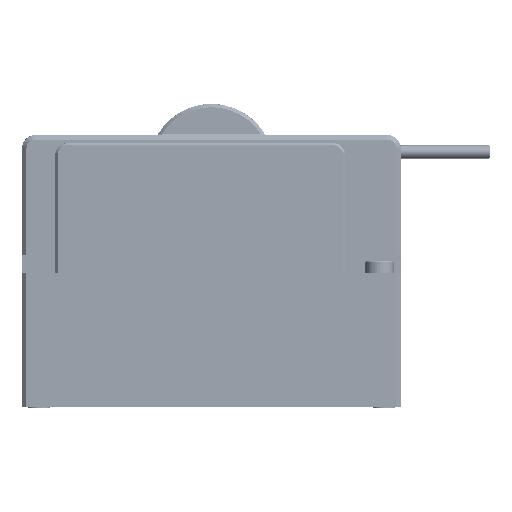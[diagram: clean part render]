
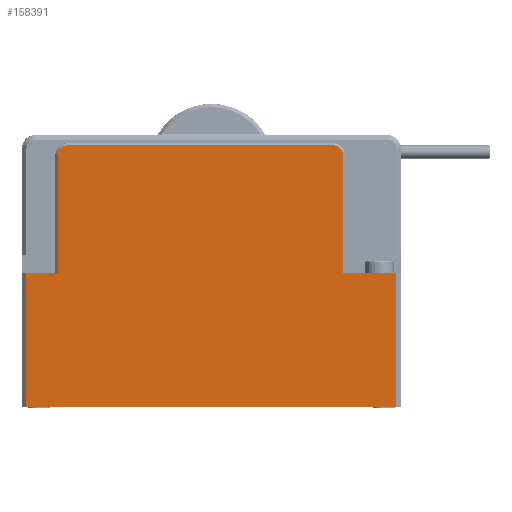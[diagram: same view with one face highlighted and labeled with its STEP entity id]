
A CAD part, left-side view. The second image highlights one B-rep face of the part: STEP entity #158391.
In plain terms, the highlighted planar face has unit normal (-1, 0, 0).
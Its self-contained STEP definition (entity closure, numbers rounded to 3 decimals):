
#16423=CARTESIAN_POINT('',(-151.25,64.191,52.5));
#16424=DIRECTION('',(-1.,0.,0.));
#16425=DIRECTION('',(0.,0.,1.));
#16426=AXIS2_PLACEMENT_3D('',#16423,#16424,#16425);
#16428=DIRECTION('',(0.,1.,0.));
#16429=VECTOR('',#16428,118.381);
#16430=CARTESIAN_POINT('',(-151.25,-54.191,57.5));
#16431=LINE('',#16430,#16429);
#16432=CARTESIAN_POINT('',(-151.25,-54.191,52.5));
#16433=DIRECTION('',(-1.,0.,0.));
#16434=DIRECTION('',(0.,-0.954,0.3));
#16435=AXIS2_PLACEMENT_3D('',#16432,#16433,#16434);
#16437=DIRECTION('',(0.,0.,-1.));
#16438=VECTOR('',#16437,54.);
#16439=CARTESIAN_POINT('',(-151.25,-59.,54.));
#16440=LINE('',#16439,#16438);
#16441=DIRECTION('',(0.,0.,-1.));
#16442=VECTOR('',#16441,60.);
#16443=CARTESIAN_POINT('',(-151.25,-83.,0.));
#16444=LINE('',#16443,#16442);
#16445=DIRECTION('',(0.,0.,-1.));
#16446=VECTOR('',#16445,60.);
#16447=CARTESIAN_POINT('',(-151.25,83.,0.));
#16448=LINE('',#16447,#16446);
#16449=DIRECTION('',(0.,0.,-1.));
#16450=VECTOR('',#16449,54.);
#16451=CARTESIAN_POINT('',(-151.25,69.,54.));
#16452=LINE('',#16451,#16450);
#16458=CARTESIAN_POINT('',(-151.25,68.96,54.));
#16460=DIRECTION('',(0.,-1.,0.));
#16461=VECTOR('',#16460,0.04);
#16462=CARTESIAN_POINT('',(-151.25,69.,54.));
#16463=LINE('',#16462,#16461);
#23968=DIRECTION('',(0.,1.,0.));
#23969=VECTOR('',#23968,14.);
#23970=CARTESIAN_POINT('',(-151.25,69.,0.));
#23971=LINE('',#23970,#23969);
#24057=DIRECTION('',(0.,1.,0.));
#24058=VECTOR('',#24057,166.);
#24059=CARTESIAN_POINT('',(-151.25,-83.,-60.));
#24060=LINE('',#24059,#24058);
#75350=DIRECTION('',(0.,1.,0.));
#75351=VECTOR('',#75350,24.);
#75352=CARTESIAN_POINT('',(-151.25,-83.,0.));
#75353=LINE('',#75352,#75351);
#75368=CARTESIAN_POINT('',(-151.25,-58.96,54.));
#75379=DIRECTION('',(0.,-1.,0.));
#75380=VECTOR('',#75379,0.04);
#75381=CARTESIAN_POINT('',(-151.25,-58.96,54.));
#75382=LINE('',#75381,#75380);
#115674=CARTESIAN_POINT('',(-151.25,83.,-60.));
#115676=VERTEX_POINT('',#115674);
#115680=CARTESIAN_POINT('',(-151.25,83.,0.));
#115681=VERTEX_POINT('',#115680);
#115683=CARTESIAN_POINT('',(-151.25,-83.,-60.));
#115685=VERTEX_POINT('',#115683);
#115686=CARTESIAN_POINT('',(-151.25,-83.,0.));
#115687=VERTEX_POINT('',#115686);
#125704=CARTESIAN_POINT('',(-151.25,69.,0.));
#125705=VERTEX_POINT('',#125704);
#125710=CARTESIAN_POINT('',(-151.25,-59.,0.));
#125711=VERTEX_POINT('',#125710);
#126328=CARTESIAN_POINT('',(-151.25,69.,54.));
#126329=VERTEX_POINT('',#126328);
#126330=CARTESIAN_POINT('',(-151.25,-59.,54.));
#126331=VERTEX_POINT('',#126330);
#127530=CARTESIAN_POINT('',(-151.25,-54.191,57.5));
#127531=CARTESIAN_POINT('',(-151.25,64.191,57.5));
#127532=VERTEX_POINT('',#127530);
#127533=VERTEX_POINT('',#127531);
#132211=VERTEX_POINT('',#75368);
#132212=VERTEX_POINT('',#16458);
#158361=CARTESIAN_POINT('',(-151.25,85.,0.));
#158362=DIRECTION('',(-1.,0.,0.));
#158363=DIRECTION('',(0.,-1.,0.));
#158364=AXIS2_PLACEMENT_3D('',#158361,#158362,#158363);
#158365=PLANE('',#158364);
#158367=ORIENTED_EDGE('',*,*,#158366,.T.);
#158369=ORIENTED_EDGE('',*,*,#158368,.F.);
#158370=ORIENTED_EDGE('',*,*,#158351,.F.);
#158372=ORIENTED_EDGE('',*,*,#158371,.F.);
#158374=ORIENTED_EDGE('',*,*,#158373,.T.);
#158376=ORIENTED_EDGE('',*,*,#158375,.T.);
#158378=ORIENTED_EDGE('',*,*,#158377,.F.);
#158380=ORIENTED_EDGE('',*,*,#158379,.T.);
#158382=ORIENTED_EDGE('',*,*,#158381,.T.);
#158384=ORIENTED_EDGE('',*,*,#158383,.F.);
#158386=ORIENTED_EDGE('',*,*,#158385,.F.);
#158388=ORIENTED_EDGE('',*,*,#158387,.F.);
#158389=EDGE_LOOP('',(#158367,#158369,#158370,#158372,#158374,#158376,#158378,
#158380,#158382,#158384,#158386,#158388));
#158390=FACE_OUTER_BOUND('',#158389,.F.);
#158391=ADVANCED_FACE('',(#158390),#158365,.T.);
#16427=CIRCLE('',#16426,5.);
#16436=CIRCLE('',#16435,5.);
#158351=EDGE_CURVE('',#127532,#127533,#16431,.T.);
#158366=EDGE_CURVE('',#126329,#132212,#16463,.T.);
#158368=EDGE_CURVE('',#127533,#132212,#16427,.T.);
#158371=EDGE_CURVE('',#132211,#127532,#16436,.T.);
#158373=EDGE_CURVE('',#132211,#126331,#75382,.T.);
#158375=EDGE_CURVE('',#126331,#125711,#16440,.T.);
#158377=EDGE_CURVE('',#115687,#125711,#75353,.T.);
#158379=EDGE_CURVE('',#115687,#115685,#16444,.T.);
#158381=EDGE_CURVE('',#115685,#115676,#24060,.T.);
#158383=EDGE_CURVE('',#115681,#115676,#16448,.T.);
#158385=EDGE_CURVE('',#125705,#115681,#23971,.T.);
#158387=EDGE_CURVE('',#126329,#125705,#16452,.T.);
